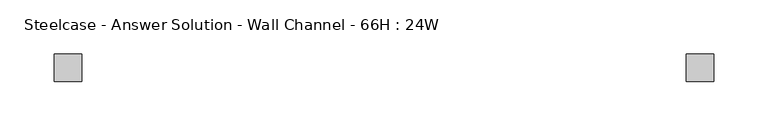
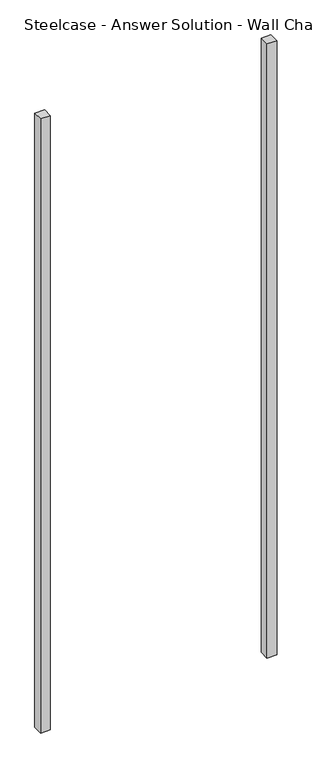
"""IFC4 building model written with IfcOpenShell, lengths in millimetres: furniture geometry, Steelcase - Answer Solution - Wall Channel - 66H : 24W."""

from ifc_helpers import new_model, si_unit, origin, origin_with_axes, place, context, project, spatial, polyline, outline, extrude, source, transform, mapped, element, save


def steelcase_answer_solution_wall_channel_66h_24w_40697c5a(model_context):
    return source(origin(), model_context, "Body", "SweptSolid", [
        extrude(outline(polyline([(584.2, 0.0), (609.6, 0.0), (609.6, -25.4), (584.2, -25.4), (584.2, 0.0)])), origin_with_axes(), (0.0, 0.0, 1.0), 1673.225),
        extrude(outline(polyline([(25.4, 0.0), (25.4, -25.4), (0.0, -25.4), (0.0, 0.0), (25.4, 0.0)])), origin_with_axes(), (0.0, 0.0, 1.0), 1673.225),
    ])


if __name__ == "__main__":
    model = new_model("IFC4")
    model_context = context("Model", 3, world=origin())
    ifc_project = project(units=[si_unit("LENGTHUNIT", "METRE", prefix="MILLI")], contexts=[model_context])
    site = spatial("IfcSite", under=ifc_project)
    building = spatial("IfcBuilding", under=site)
    placement = place(None, origin())
    steelcase_answer_solution_wall_channel_66h_24w_shape = steelcase_answer_solution_wall_channel_66h_24w_40697c5a(model_context)
    element("IfcFurniture", 1, ObjectType="Steelcase - Answer Solution - Wall Channel - 66H : 24W", at=placement, inside=building, context=model_context, shape_type="MappedRepresentation", body=[
        mapped(steelcase_answer_solution_wall_channel_66h_24w_shape, transform((0.0, 0.0, 0.0), x_axis=(1.0, 0.0, 0.0), y_axis=(0.0, 1.0, 0.0), z_axis=(0.0, 0.0, 1.0))),
    ])
    save(model, "model.ifc")
